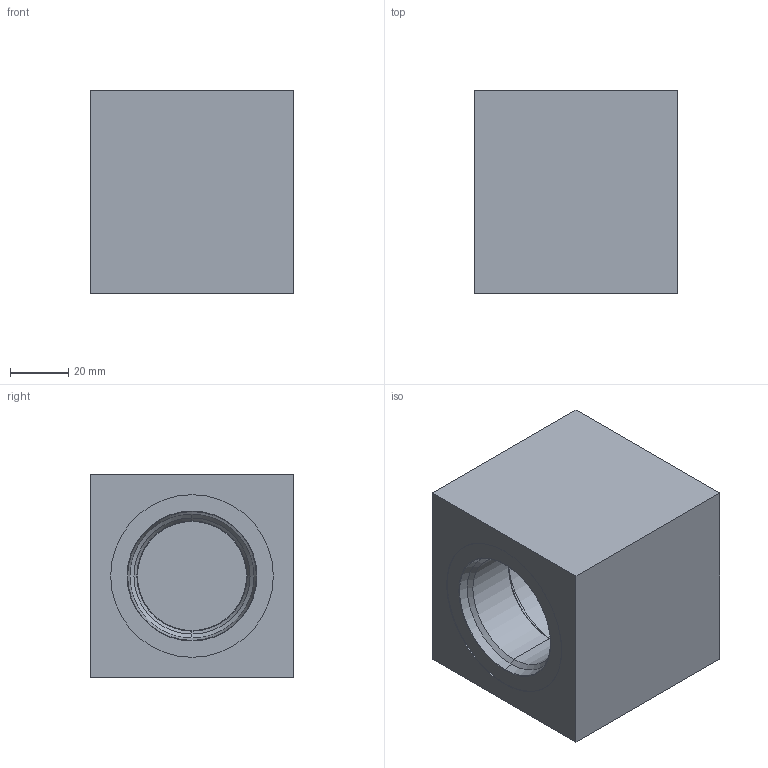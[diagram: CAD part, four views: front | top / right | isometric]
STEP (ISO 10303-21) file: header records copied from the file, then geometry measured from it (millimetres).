
FILE_DESCRIPTION (( 'STEP AP214' ), '1' );
FILE_NAME ('0296129.STEP', '2022-01-11T11:55:22', ( '' ), ( '' ), 'SwSTEP 2.0', 'SolidWorks 2020', '' );
FILE_SCHEMA (( 'AUTOMOTIVE_DESIGN' ));
Length unit declared in the file: millimetre
Products named in the file (1): 0296129
Bounding box: 70 x 70 x 70 mm (x, y, z)
Volume: 259908.5 mm3; surface area: 37464.3 mm2
Topology: 1 solids, 1 shells, 33 faces, 66 edges, 40 vertices
Faces by surface type: plane 11, cylinder 10, cone 6, torus 6
Entity records: 984 total; most frequent: DIRECTION 172, CARTESIAN_POINT 140, ORIENTED_EDGE 132, AXIS2_PLACEMENT_3D 72, EDGE_CURVE 66, VERTEX_POINT 40, CIRCLE 38, EDGE_LOOP 38
